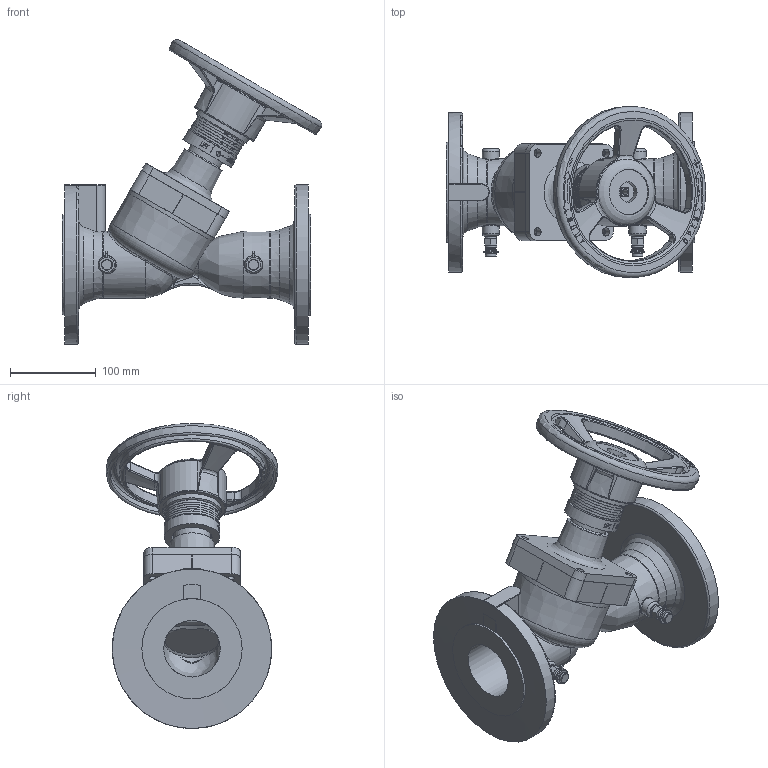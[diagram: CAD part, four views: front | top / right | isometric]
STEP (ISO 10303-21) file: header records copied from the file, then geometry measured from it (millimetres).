
FILE_DESCRIPTION((''),'2;1');
FILE_NAME('P:\Fastrack\53972_CRANE 3D\DM921-941\WORKSPACE\DM921-941\DM931_DN65\New\DM931_DN65A.stp','2011-02-25T08:43:37',('btaylor'),(''),'Autodesk Inventor 2008','Autodesk Inventor 2008','');
FILE_SCHEMA(('AUTOMOTIVE_DESIGN { 1 0 10303 214 1 1 1 1 }'));
Length unit declared in the file: millimetre
Products named in the file (1): DM931_DN65
Bounding box: 302.41 x 200.2 x 355.69 mm (x, y, z)
Volume: 2662953.3 mm3; surface area: 385158.6 mm2
Topology: 1 solids, 1 shells, 858 faces, 2193 edges, 1398 vertices
Faces by surface type: plane 344, bspline 257, cylinder 164, cone 48, torus 45
Full cylindrical faces by diameter (mm): 6 x2, 7.4 x2, 8 x4, 9.5 x4, 11 x2, 12.7 x2, 13.7 x2, 17.3 x1, 20 x8, 24 x1, 40 x1, 42 x1, 47 x1, 53 x1, 55.7 x1, 60.7 x1, 62 x3, 65 x1, 66.01 x2, 68 x1, 78.01 x2, 118 x1, 186.01 x1
Entity records: 71458 total; most frequent: CARTESIAN_POINT 52780, ORIENTED_EDGE 4086, DIRECTION 3088, EDGE_CURVE 2043, VERTEX_POINT 1347, AXIS2_PLACEMENT_3D 1137, EDGE_LOOP 1049, FACE_OUTER_BOUND 858
